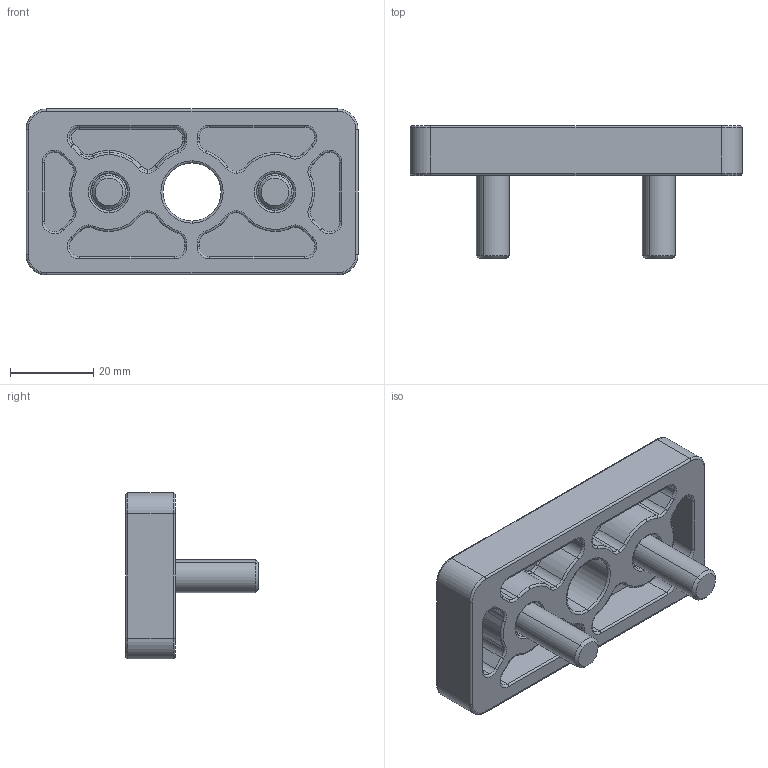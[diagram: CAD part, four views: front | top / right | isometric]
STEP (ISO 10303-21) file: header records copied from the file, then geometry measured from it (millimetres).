
FILE_DESCRIPTION (( 'STEP AP214' ), '1' );
FILE_NAME ('1.5046 Kierrelevy 40X80 M16.STEP', '2025-09-16T07:26:10', ( '' ), ( '' ), 'SwSTEP 2.0', 'SolidWorks 2025', '' );
FILE_SCHEMA (( 'AUTOMOTIVE_DESIGN' ));
Length unit declared in the file: millimetre
Products named in the file (1): 1.5046 Kierrelevy 40X80 M16
Bounding box: 80 x 32 x 40 mm (x, y, z)
Volume: 27942.2 mm3; surface area: 15237.1 mm2
Topology: 3 solids, 3 shells, 265 faces, 613 edges, 362 vertices
Faces by surface type: cylinder 104, torus 85, plane 66, cone 10
Entity records: 10462 total; most frequent: DIRECTION 1510, CARTESIAN_POINT 1237, ORIENTED_EDGE 1218, AXIS2_PLACEMENT_3D 635, EDGE_CURVE 609, CIRCLE 369, VERTEX_POINT 362, EDGE_LOOP 283
